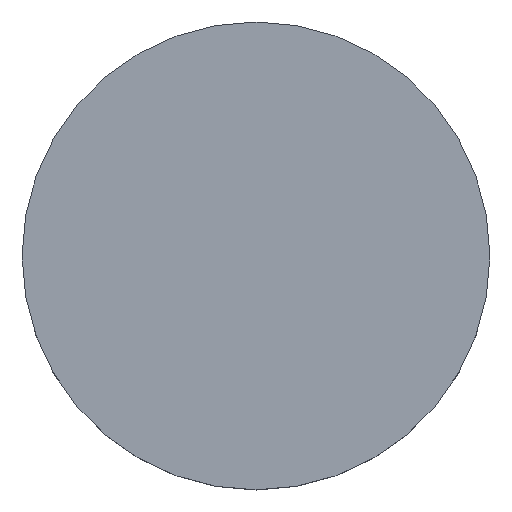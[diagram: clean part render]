
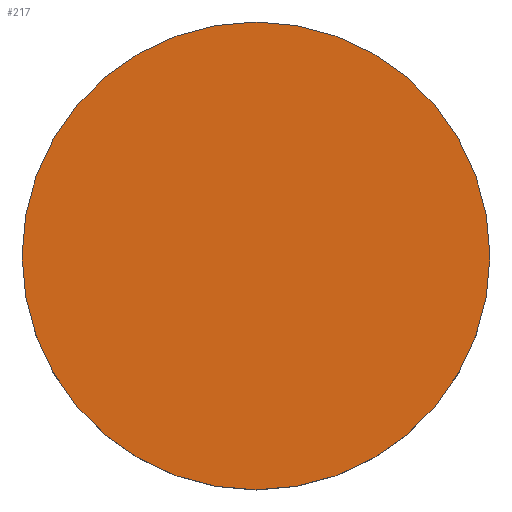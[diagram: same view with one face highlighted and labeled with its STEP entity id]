
A CAD part, top view. The second image highlights one B-rep face of the part: STEP entity #217.
In plain terms, the highlighted planar face has unit normal (0, 0, 1).
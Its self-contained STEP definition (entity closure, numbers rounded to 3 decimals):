
#217=ADVANCED_FACE('',(#281),#266,.T.);
#266=PLANE('',#798);
#281=FACE_OUTER_BOUND('',#317,.T.);
#317=EDGE_LOOP('',(#379,#380));
#379=ORIENTED_EDGE('',*,*,#633,.F.);
#380=ORIENTED_EDGE('',*,*,#634,.F.);
#571=VERTEX_POINT('',#1175);
#572=VERTEX_POINT('',#1176);
#633=EDGE_CURVE('',#571,#572,#729,.T.);
#634=EDGE_CURVE('',#572,#571,#730,.T.);
#729=CIRCLE('',#796,14.);
#730=CIRCLE('',#797,14.);
#796=AXIS2_PLACEMENT_3D('',#1174,#913,#914);
#797=AXIS2_PLACEMENT_3D('',#1177,#915,#916);
#798=AXIS2_PLACEMENT_3D('',#1178,#917,#918);
#913=DIRECTION('',(0.,0.,-1.));
#914=DIRECTION('',(0.,1.,0.));
#915=DIRECTION('',(0.,0.,-1.));
#916=DIRECTION('',(0.,-1.,0.));
#917=DIRECTION('',(0.,0.,1.));
#918=DIRECTION('',(0.,-1.,0.));
#1174=CARTESIAN_POINT('',(0.,0.,5.));
#1175=CARTESIAN_POINT('',(14.,0.,5.));
#1176=CARTESIAN_POINT('',(-14.,0.,5.));
#1177=CARTESIAN_POINT('',(0.,0.,5.));
#1178=CARTESIAN_POINT('',(0.,0.,5.));
